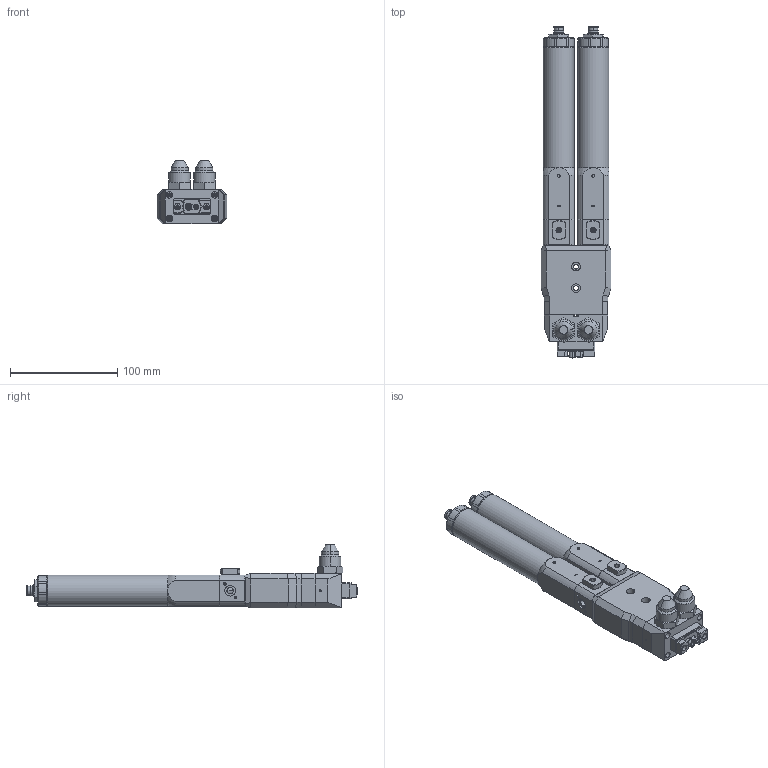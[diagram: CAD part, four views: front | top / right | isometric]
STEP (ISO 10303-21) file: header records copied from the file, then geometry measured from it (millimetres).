
FILE_DESCRIPTION (( 'STEP AP214' ), '1' );
FILE_NAME ('PDPM-500BB.STEP', '2024-10-11T12:13:41', ( '' ), ( '' ), 'SwSTEP 2.0', 'SolidWorks 2024', '' );
FILE_SCHEMA (( 'AUTOMOTIVE_DESIGN' ));
Length unit declared in the file: millimetre
Products named in the file (1): PDPM-500BB
Bounding box: 65 x 309 x 59.3 mm (x, y, z)
Volume: 466171.5 mm3; surface area: 105047.4 mm2
Topology: 13 solids, 13 shells, 1204 faces, 2958 edges, 1860 vertices
Faces by surface type: plane 489, cylinder 462, cone 219, bspline 14, torus 12, sphere 8
Full cylindrical faces by diameter (mm): 29 x2
Entity records: 47993 total; most frequent: CARTESIAN_POINT 20127, ORIENTED_EDGE 5834, DIRECTION 5672, EDGE_CURVE 2917, AXIS2_PLACEMENT_3D 2210, VERTEX_POINT 1859, EDGE_LOOP 1366, VECTOR 1252
